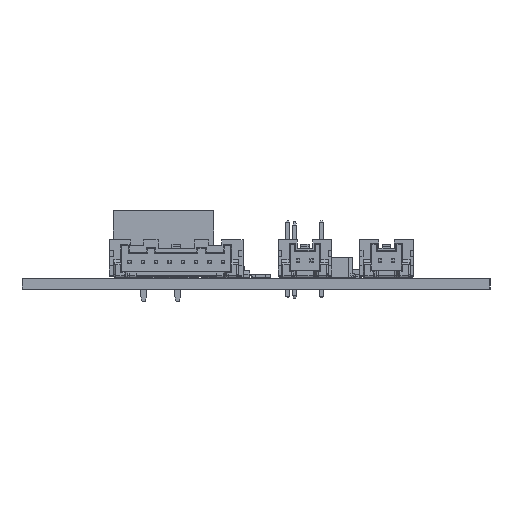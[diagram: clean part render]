
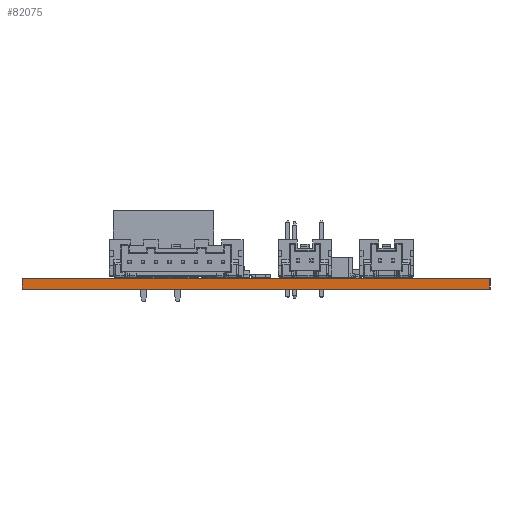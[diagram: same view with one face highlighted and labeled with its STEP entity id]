
A CAD part, left-side view. The second image highlights one B-rep face of the part: STEP entity #82075.
In plain terms, the highlighted planar face has unit normal (-1, 0, 0).
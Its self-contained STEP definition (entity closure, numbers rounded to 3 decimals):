
#82019 = VERTEX_POINT('',#82020);
#82020 = CARTESIAN_POINT('',(0.,0.,1.6));
#82026 = EDGE_CURVE('',#82027,#82019,#82029,.T.);
#82027 = VERTEX_POINT('',#82028);
#82028 = CARTESIAN_POINT('',(0.,-0.,0.));
#82029 = LINE('',#82030,#82031);
#82030 = CARTESIAN_POINT('',(0.,-0.,0.));
#82031 = VECTOR('',#82032,1.);
#82032 = DIRECTION('',(0.,0.,1.));
#82075 = ADVANCED_FACE('',(#82076),#82101,.T.);
#82076 = FACE_BOUND('',#82077,.T.);
#82077 = EDGE_LOOP('',(#82078,#82079,#82087,#82095));
#82078 = ORIENTED_EDGE('',*,*,#82026,.T.);
#82079 = ORIENTED_EDGE('',*,*,#82080,.T.);
#82080 = EDGE_CURVE('',#82019,#82081,#82083,.T.);
#82081 = VERTEX_POINT('',#82082);
#82082 = CARTESIAN_POINT('',(0.,70.,1.6));
#82083 = LINE('',#82084,#82085);
#82084 = CARTESIAN_POINT('',(0.,0.,1.6));
#82085 = VECTOR('',#82086,1.);
#82086 = DIRECTION('',(0.,1.,0.));
#82087 = ORIENTED_EDGE('',*,*,#82088,.F.);
#82088 = EDGE_CURVE('',#82089,#82081,#82091,.T.);
#82089 = VERTEX_POINT('',#82090);
#82090 = CARTESIAN_POINT('',(0.,70.,0.));
#82091 = LINE('',#82092,#82093);
#82092 = CARTESIAN_POINT('',(0.,70.,0.));
#82093 = VECTOR('',#82094,1.);
#82094 = DIRECTION('',(0.,0.,1.));
#82095 = ORIENTED_EDGE('',*,*,#82096,.F.);
#82096 = EDGE_CURVE('',#82027,#82089,#82097,.T.);
#82097 = LINE('',#82098,#82099);
#82098 = CARTESIAN_POINT('',(0.,-0.,0.));
#82099 = VECTOR('',#82100,1.);
#82100 = DIRECTION('',(0.,1.,0.));
#82101 = PLANE('',#82102);
#82102 = AXIS2_PLACEMENT_3D('',#82103,#82104,#82105);
#82103 = CARTESIAN_POINT('',(0.,0.,0.));
#82104 = DIRECTION('',(-1.,0.,0.));
#82105 = DIRECTION('',(0.,1.,0.));
